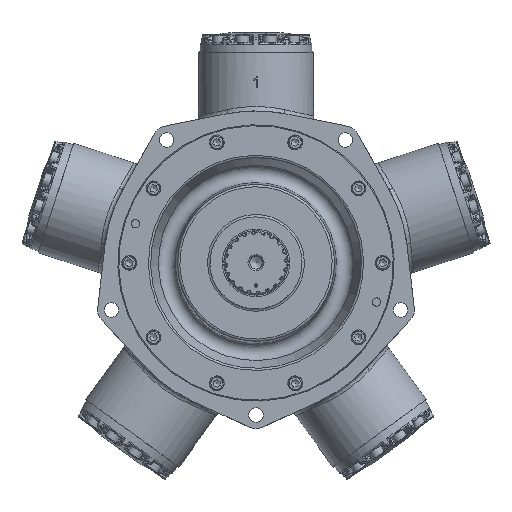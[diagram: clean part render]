
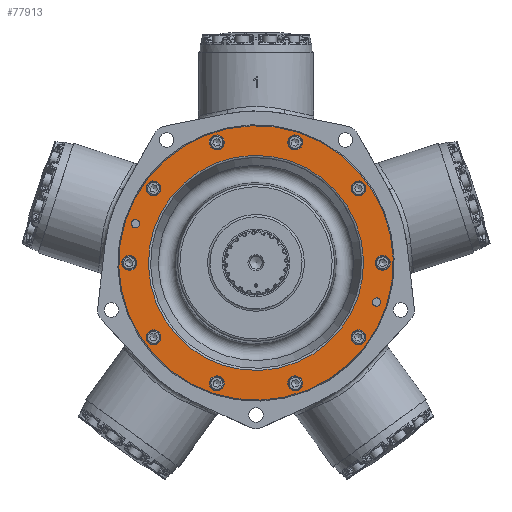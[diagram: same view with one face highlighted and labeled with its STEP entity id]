
A CAD part, top view. The second image highlights one B-rep face of the part: STEP entity #77913.
In plain terms, the highlighted planar face has unit normal (0, 0, 1).
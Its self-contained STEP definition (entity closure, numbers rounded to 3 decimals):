
#8143=FACE_BOUND('',#22736,.T.);
#8144=FACE_BOUND('',#22737,.T.);
#8145=FACE_BOUND('',#22738,.T.);
#8146=FACE_BOUND('',#22739,.T.);
#8147=FACE_BOUND('',#22740,.T.);
#8148=FACE_BOUND('',#22741,.T.);
#8149=FACE_BOUND('',#22742,.T.);
#8150=FACE_BOUND('',#22743,.T.);
#8151=FACE_BOUND('',#22744,.T.);
#8152=FACE_BOUND('',#22745,.T.);
#8153=FACE_BOUND('',#22746,.T.);
#8154=FACE_BOUND('',#22747,.T.);
#8155=FACE_BOUND('',#22748,.T.);
#15640=PLANE('',#83312);
#17810=FACE_OUTER_BOUND('',#22735,.T.);
#22735=EDGE_LOOP('',(#55169));
#22736=EDGE_LOOP('',(#55170));
#22737=EDGE_LOOP('',(#55171));
#22738=EDGE_LOOP('',(#55172));
#22739=EDGE_LOOP('',(#55173));
#22740=EDGE_LOOP('',(#55174));
#22741=EDGE_LOOP('',(#55175));
#22742=EDGE_LOOP('',(#55176));
#22743=EDGE_LOOP('',(#55177));
#22744=EDGE_LOOP('',(#55178));
#22745=EDGE_LOOP('',(#55179));
#22746=EDGE_LOOP('',(#55180));
#22747=EDGE_LOOP('',(#55181));
#22748=EDGE_LOOP('',(#55182));
#27171=CIRCLE('',#83293,148.273);
#27183=CIRCLE('',#83313,189.179);
#27184=CIRCLE('',#83314,5.664);
#27185=CIRCLE('',#83315,5.664);
#27186=CIRCLE('',#83316,10.319);
#27187=CIRCLE('',#83317,10.319);
#27188=CIRCLE('',#83318,10.319);
#27189=CIRCLE('',#83319,10.319);
#27190=CIRCLE('',#83320,10.319);
#27191=CIRCLE('',#83321,10.319);
#27192=CIRCLE('',#83322,10.319);
#27193=CIRCLE('',#83323,10.319);
#27194=CIRCLE('',#83324,10.319);
#27195=CIRCLE('',#83325,10.319);
#31748=VERTEX_POINT('',#149695);
#31758=VERTEX_POINT('',#149729);
#31759=VERTEX_POINT('',#149731);
#31760=VERTEX_POINT('',#149733);
#31761=VERTEX_POINT('',#149735);
#31762=VERTEX_POINT('',#149737);
#31763=VERTEX_POINT('',#149739);
#31764=VERTEX_POINT('',#149741);
#31765=VERTEX_POINT('',#149743);
#31766=VERTEX_POINT('',#149745);
#31767=VERTEX_POINT('',#149747);
#31768=VERTEX_POINT('',#149749);
#31769=VERTEX_POINT('',#149751);
#31770=VERTEX_POINT('',#149753);
#40062=EDGE_CURVE('',#31748,#31748,#27171,.T.);
#40077=EDGE_CURVE('',#31758,#31758,#27183,.T.);
#40078=EDGE_CURVE('',#31759,#31759,#27184,.T.);
#40079=EDGE_CURVE('',#31760,#31760,#27185,.T.);
#40080=EDGE_CURVE('',#31761,#31761,#27186,.T.);
#40081=EDGE_CURVE('',#31762,#31762,#27187,.T.);
#40082=EDGE_CURVE('',#31763,#31763,#27188,.T.);
#40083=EDGE_CURVE('',#31764,#31764,#27189,.T.);
#40084=EDGE_CURVE('',#31765,#31765,#27190,.T.);
#40085=EDGE_CURVE('',#31766,#31766,#27191,.T.);
#40086=EDGE_CURVE('',#31767,#31767,#27192,.T.);
#40087=EDGE_CURVE('',#31768,#31768,#27193,.T.);
#40088=EDGE_CURVE('',#31769,#31769,#27194,.T.);
#40089=EDGE_CURVE('',#31770,#31770,#27195,.T.);
#55169=ORIENTED_EDGE('',*,*,#40077,.F.);
#55170=ORIENTED_EDGE('',*,*,#40078,.T.);
#55171=ORIENTED_EDGE('',*,*,#40079,.T.);
#55172=ORIENTED_EDGE('',*,*,#40080,.T.);
#55173=ORIENTED_EDGE('',*,*,#40081,.T.);
#55174=ORIENTED_EDGE('',*,*,#40082,.T.);
#55175=ORIENTED_EDGE('',*,*,#40083,.T.);
#55176=ORIENTED_EDGE('',*,*,#40084,.T.);
#55177=ORIENTED_EDGE('',*,*,#40085,.T.);
#55178=ORIENTED_EDGE('',*,*,#40086,.T.);
#55179=ORIENTED_EDGE('',*,*,#40087,.T.);
#55180=ORIENTED_EDGE('',*,*,#40088,.T.);
#55181=ORIENTED_EDGE('',*,*,#40089,.T.);
#55182=ORIENTED_EDGE('',*,*,#40062,.F.);
#77913=ADVANCED_FACE('',(#17810,#8143,#8144,#8145,#8146,#8147,#8148,#8149,
#8150,#8151,#8152,#8153,#8154,#8155),#15640,.T.);
#83293=AXIS2_PLACEMENT_3D('',#149697,#93043,#93044);
#83312=AXIS2_PLACEMENT_3D('',#149728,#93084,#93085);
#83313=AXIS2_PLACEMENT_3D('',#149730,#93086,#93087);
#83314=AXIS2_PLACEMENT_3D('',#149732,#93088,#93089);
#83315=AXIS2_PLACEMENT_3D('',#149734,#93090,#93091);
#83316=AXIS2_PLACEMENT_3D('',#149736,#93092,#93093);
#83317=AXIS2_PLACEMENT_3D('',#149738,#93094,#93095);
#83318=AXIS2_PLACEMENT_3D('',#149740,#93096,#93097);
#83319=AXIS2_PLACEMENT_3D('',#149742,#93098,#93099);
#83320=AXIS2_PLACEMENT_3D('',#149744,#93100,#93101);
#83321=AXIS2_PLACEMENT_3D('',#149746,#93102,#93103);
#83322=AXIS2_PLACEMENT_3D('',#149748,#93104,#93105);
#83323=AXIS2_PLACEMENT_3D('',#149750,#93106,#93107);
#83324=AXIS2_PLACEMENT_3D('',#149752,#93108,#93109);
#83325=AXIS2_PLACEMENT_3D('',#149754,#93110,#93111);
#93043=DIRECTION('center_axis',(0.,0.,
1.));
#93044=DIRECTION('ref_axis',(-0.951,0.309,0.));
#93084=DIRECTION('center_axis',(0.,0.,
1.));
#93085=DIRECTION('ref_axis',(-0.309,-0.951,0.));
#93086=DIRECTION('center_axis',(0.,0.,
-1.));
#93087=DIRECTION('ref_axis',(-0.951,0.309,0.));
#93088=DIRECTION('center_axis',(0.,0.,
-1.));
#93089=DIRECTION('ref_axis',(-0.309,-0.951,0.));
#93090=DIRECTION('center_axis',(0.,0.,
-1.));
#93091=DIRECTION('ref_axis',(-0.309,-0.951,0.));
#93092=DIRECTION('center_axis',(0.,0.,
-1.));
#93093=DIRECTION('ref_axis',(0.809,0.588,0.));
#93094=DIRECTION('center_axis',(0.,0.,
-1.));
#93095=DIRECTION('ref_axis',(1.,0.,0.));
#93096=DIRECTION('center_axis',(0.,0.,
-1.));
#93097=DIRECTION('ref_axis',(0.809,-0.588,0.));
#93098=DIRECTION('center_axis',(0.,0.,
-1.));
#93099=DIRECTION('ref_axis',(0.309,-0.951,0.));
#93100=DIRECTION('center_axis',(0.,0.,
-1.));
#93101=DIRECTION('ref_axis',(-0.309,-0.951,0.));
#93102=DIRECTION('center_axis',(0.,0.,
-1.));
#93103=DIRECTION('ref_axis',(-0.809,-0.588,0.));
#93104=DIRECTION('center_axis',(0.,0.,
-1.));
#93105=DIRECTION('ref_axis',(-1.,0.,0.));
#93106=DIRECTION('center_axis',(0.,0.,
-1.));
#93107=DIRECTION('ref_axis',(-0.809,0.588,0.));
#93108=DIRECTION('center_axis',(0.,0.,
-1.));
#93109=DIRECTION('ref_axis',(-0.309,0.951,0.));
#93110=DIRECTION('center_axis',(0.,0.,
-1.));
#93111=DIRECTION('ref_axis',(0.309,0.951,0.));
#149695=CARTESIAN_POINT('',(45.819,141.016,19.664));
#149697=CARTESIAN_POINT('Origin',(0.,0.,
19.664));
#149728=CARTESIAN_POINT('Origin',(161.549,-52.49,19.664));
#149729=CARTESIAN_POINT('',(179.92,-58.459,19.664));
#149730=CARTESIAN_POINT('Origin',(0.,0.,
19.664));
#149731=CARTESIAN_POINT('',(167.829,-48.575,19.664));
#149732=CARTESIAN_POINT('Origin',(166.078,-53.962,19.664));
#149733=CARTESIAN_POINT('',(-164.328,59.349,19.664));
#149734=CARTESIAN_POINT('Origin',(-166.078,53.962,19.664));
#149735=CARTESIAN_POINT('',(-149.623,-108.707,19.664));
#149736=CARTESIAN_POINT('Origin',(-141.275,-102.642,19.664));
#149737=CARTESIAN_POINT('',(-184.944,0.,19.664));
#149738=CARTESIAN_POINT('Origin',(-174.625,0.,19.664));
#149739=CARTESIAN_POINT('',(-149.623,108.707,19.664));
#149740=CARTESIAN_POINT('Origin',(-141.275,102.642,19.664));
#149741=CARTESIAN_POINT('',(-57.151,175.892,19.664));
#149742=CARTESIAN_POINT('Origin',(-53.962,166.078,19.664));
#149743=CARTESIAN_POINT('',(57.151,175.892,19.664));
#149744=CARTESIAN_POINT('Origin',(53.962,166.078,19.664));
#149745=CARTESIAN_POINT('',(149.623,108.707,19.664));
#149746=CARTESIAN_POINT('Origin',(141.275,102.642,19.664));
#149747=CARTESIAN_POINT('',(184.944,0.,19.664));
#149748=CARTESIAN_POINT('Origin',(174.625,0.,19.664));
#149749=CARTESIAN_POINT('',(149.623,-108.707,19.664));
#149750=CARTESIAN_POINT('Origin',(141.275,-102.642,19.664));
#149751=CARTESIAN_POINT('',(57.151,-175.892,19.664));
#149752=CARTESIAN_POINT('Origin',(53.962,-166.078,19.664));
#149753=CARTESIAN_POINT('',(-57.151,-175.892,19.664));
#149754=CARTESIAN_POINT('Origin',(-53.962,-166.078,19.664));
